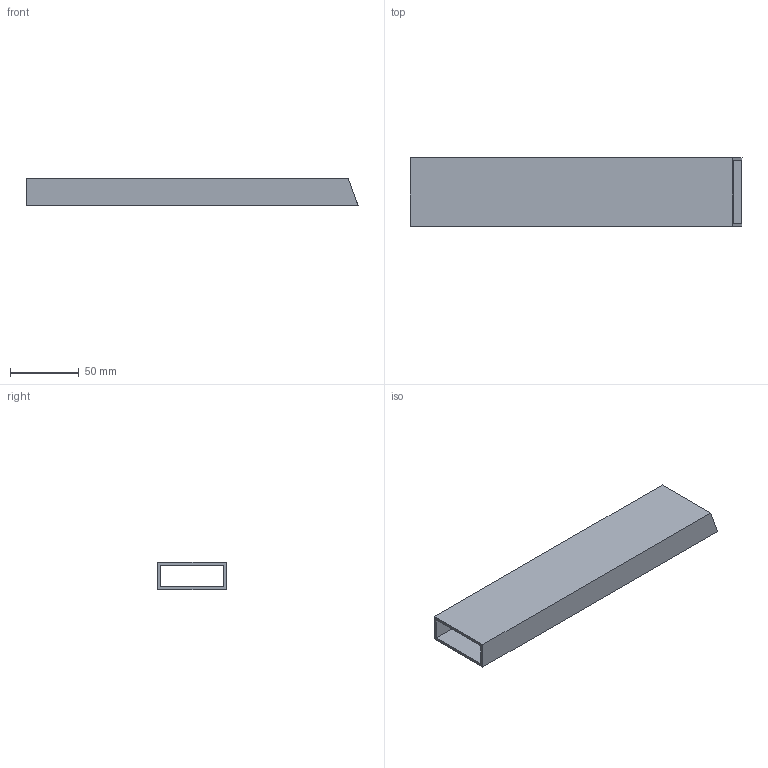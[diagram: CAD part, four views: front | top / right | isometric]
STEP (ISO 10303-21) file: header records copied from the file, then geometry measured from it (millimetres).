
FILE_DESCRIPTION(/* description */ (''),/* implementation_level */ '2;1');
FILE_NAME(/* name */ 'Pos128-Koker 50x20x2 EN 10219-2-S235JRH-1st',/* time_stamp */ '2024-08-06T13:49:48+02:00',/* author */ (''),/* organization */ (''),/* preprocessor_version */ 'ST-DEVELOPER v16.5',/* originating_system */ 'HiCAD 2024 2901.2 Build 361',/* authorisation */ '');
FILE_SCHEMA (('AUTOMOTIVE_DESIGN { 1 0 10303 214 1 1 1 1 }'));
Length unit declared in the file: millimetre
Products named in the file (1): Pos128-Koker 50x20x2 EN 10219-2-S235JRH-1st
Bounding box: 241.6 x 50 x 20 mm (x, y, z)
Volume: 62846.4 mm3; surface area: 63390.4 mm2
Topology: 1 solids, 1 shells, 10 faces, 24 edges, 16 vertices
Faces by surface type: plane 10
Entity records: 550 total; most frequent: CARTESIAN_POINT 50, PRESENTATION_STYLE_ASSIGNMENT 49, COLOUR_RGB 49, DRAUGHTING_PRE_DEFINED_CURVE_FONT 48, CURVE_STYLE 48, OVER_RIDING_STYLED_ITEM 48, ORIENTED_EDGE 48, DIRECTION 44
